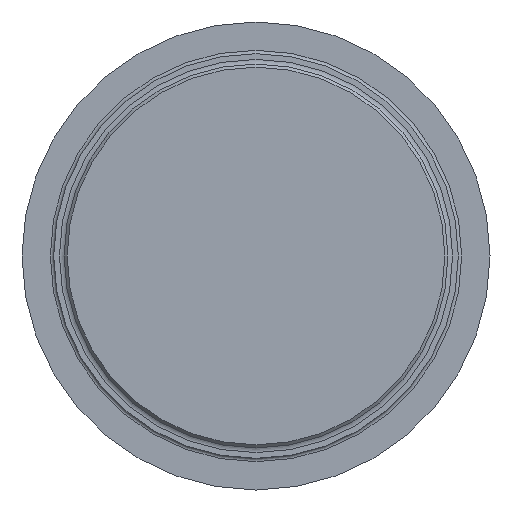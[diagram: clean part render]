
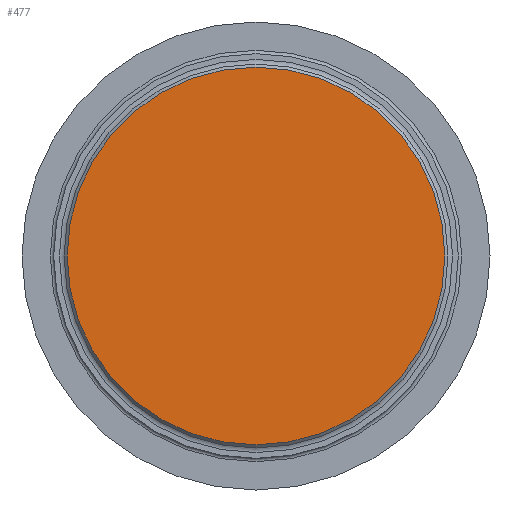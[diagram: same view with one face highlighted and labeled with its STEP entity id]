
A CAD part, front view. The second image highlights one B-rep face of the part: STEP entity #477.
In plain terms, the highlighted planar face has unit normal (0, -1, 0).
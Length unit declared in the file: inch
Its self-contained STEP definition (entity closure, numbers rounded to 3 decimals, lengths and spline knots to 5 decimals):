
#23=PLANE('',#583);
#86=FACE_OUTER_BOUND('',#114,.T.);
#114=EDGE_LOOP('',(#427,#428));
#144=CIRCLE('',#527,1.6645);
#145=CIRCLE('',#528,1.6645);
#200=VERTEX_POINT('',#817);
#201=VERTEX_POINT('',#819);
#257=EDGE_CURVE('',#201,#200,#144,.T.);
#258=EDGE_CURVE('',#200,#201,#145,.T.);
#427=ORIENTED_EDGE('',*,*,#257,.T.);
#428=ORIENTED_EDGE('',*,*,#258,.T.);
#477=ADVANCED_FACE('',(#86),#23,.F.);
#527=AXIS2_PLACEMENT_3D('',#820,#641,#642);
#528=AXIS2_PLACEMENT_3D('',#821,#643,#644);
#583=AXIS2_PLACEMENT_3D('',#920,#763,#764);
#641=DIRECTION('center_axis',(0.,-1.,0.));
#642=DIRECTION('ref_axis',(0.,0.,1.));
#643=DIRECTION('center_axis',(0.,-1.,0.));
#644=DIRECTION('ref_axis',(0.,0.,1.));
#763=DIRECTION('center_axis',(0.,1.,0.));
#764=DIRECTION('ref_axis',(0.,0.,1.));
#817=CARTESIAN_POINT('',(0.,-0.63,-1.6645));
#819=CARTESIAN_POINT('',(0.,-0.63,1.6645));
#820=CARTESIAN_POINT('Origin',(0.,-0.63,0.));
#821=CARTESIAN_POINT('Origin',(0.,-0.63,0.));
#920=CARTESIAN_POINT('Origin',(1.783,-0.63,0.));
